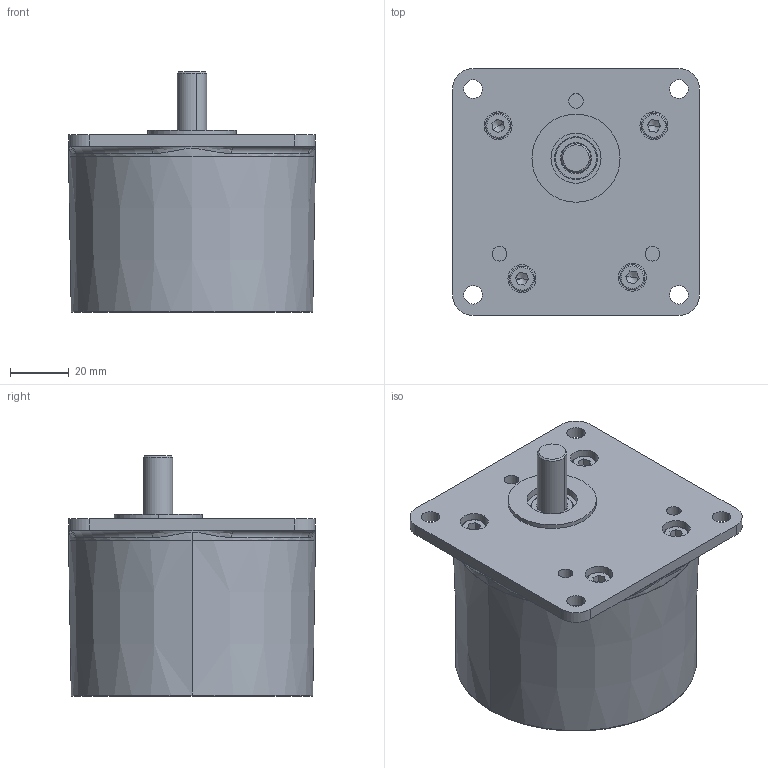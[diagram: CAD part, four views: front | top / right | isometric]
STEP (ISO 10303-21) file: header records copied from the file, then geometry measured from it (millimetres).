
FILE_DESCRIPTION (( 'STEP AP214' ), '1' );
FILE_NAME ('Z8.STEP', '2011-12-13T14:28:55', ( ' ' ), ( '' ), 'SwSTEP 2.0', 'SolidWorks 2010', '' );
FILE_SCHEMA (( 'AUTOMOTIVE_DESIGN' ));
Length unit declared in the file: millimetre
Products named in the file (1): Z8
Bounding box: 84 x 84 x 81.95 mm (x, y, z)
Volume: 140364.2 mm3; surface area: 77419.2 mm2
Topology: 8 solids, 11 shells, 860 faces, 2062 edges, 1258 vertices
Faces by surface type: cylinder 337, torus 219, plane 176, cone 62, bspline 56, sphere 10
Entity records: 37281 total; most frequent: CARTESIAN_POINT 7459, DIRECTION 4629, ORIENTED_EDGE 4084, EDGE_CURVE 2042, AXIS2_PLACEMENT_3D 1995, VERTEX_POINT 1256, CIRCLE 1190, EDGE_LOOP 950
